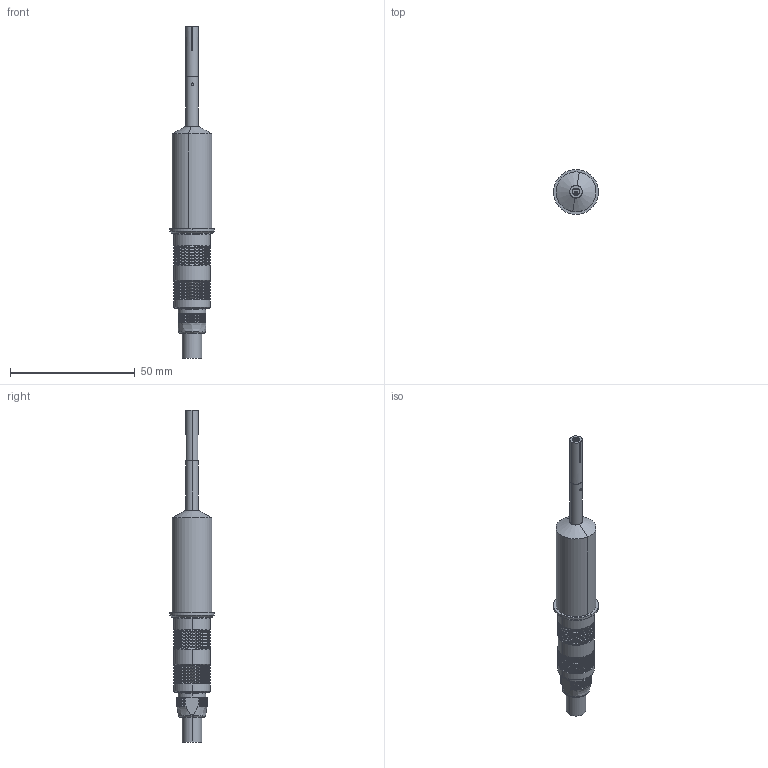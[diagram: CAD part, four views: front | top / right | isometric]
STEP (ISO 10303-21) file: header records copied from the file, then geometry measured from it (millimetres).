
FILE_DESCRIPTION (( 'STEP AP214' ), '1' );
FILE_NAME ('RISO5_mittel_Stecker_gerade.STEP', '2011-02-21T01:01:29', ( '' ), ( '' ), 'SwSTEP 2.0', 'SolidWorks 2010', '' );
FILE_SCHEMA (( 'AUTOMOTIVE_DESIGN' ));
Length unit declared in the file: millimetre
Products named in the file (1): RISO5_mittel_Stecker_gerade
Bounding box: 18 x 18 x 133 mm (x, y, z)
Surface area: 5696.7 mm2 (no closed solid volume)
Topology: 0 solids, 8 shells, 7065 faces, 14907 edges, 7832 vertices
Faces by surface type: plane 4372, bspline 2657, cylinder 28, cone 8
Entity records: 278504 total; most frequent: CARTESIAN_POINT 87296, ORIENTED_EDGE 29710, DIRECTION 18718, EDGE_CURVE 14905, AXIS2_PLACEMENT_3D 8184, VERTEX_POINT 7832, EDGE_LOOP 7075, UNCERTAINTY_MEASURE_WITH_UNIT 7067
